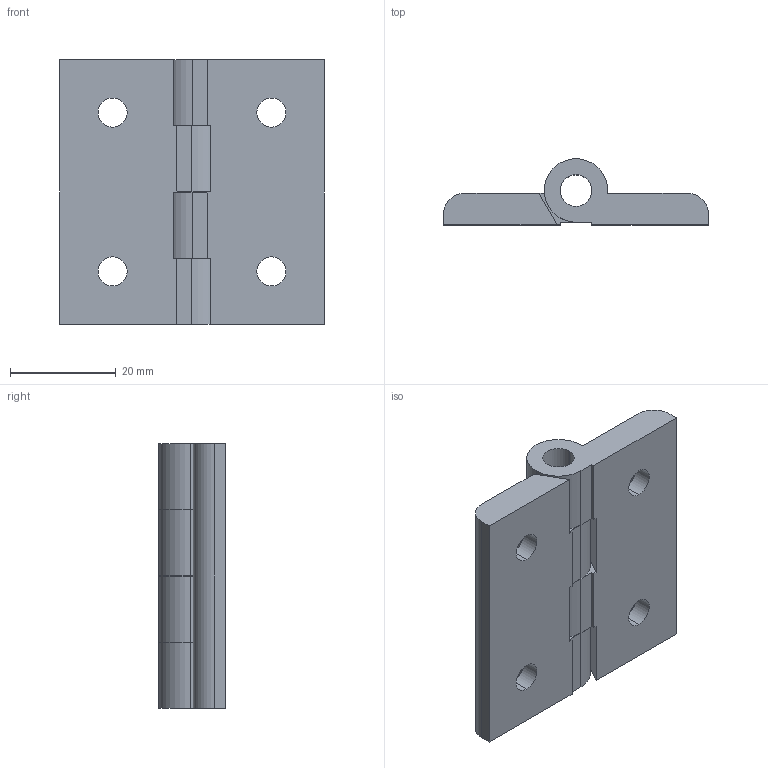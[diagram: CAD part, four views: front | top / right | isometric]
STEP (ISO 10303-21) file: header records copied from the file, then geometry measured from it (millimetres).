
FILE_DESCRIPTION (( 'STEP AP203' ), '1' );
FILE_NAME ('C040551.STEP', '2018-03-16T14:39:48', ( '' ), ( '' ), 'SwSTEP 2.0', 'SolidWorks 2016', '' );
FILE_SCHEMA (( 'CONFIG_CONTROL_DESIGN' ));
Length unit declared in the file: millimetre
Products named in the file (2): ALETTA PER 084.503.001; C040551
Assembly tree (2 placements, depth 2):
  C040551
    ALETTA PER 084.503.001  x2
Bounding box: 50 x 12.5 x 50 mm (x, y, z)
Volume: 15135.7 mm3; surface area: 8687.6 mm2
Topology: 2 solids, 2 shells, 66 faces, 178 edges, 116 vertices
Faces by surface type: cylinder 30, plane 28, cone 8
Entity records: 1289 total; most frequent: DIRECTION 199, CARTESIAN_POINT 185, ORIENTED_EDGE 178, EDGE_CURVE 89, AXIS2_PLACEMENT_3D 72, VERTEX_POINT 58, LINE 55, VECTOR 55
